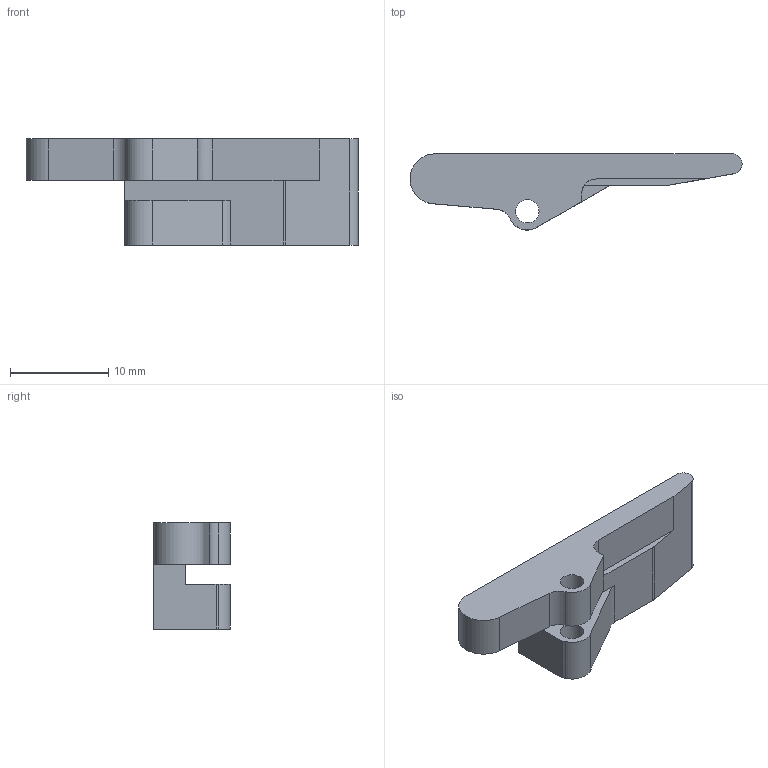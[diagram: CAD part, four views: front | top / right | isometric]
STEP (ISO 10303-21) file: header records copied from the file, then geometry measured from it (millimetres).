
FILE_DESCRIPTION (( 'STEP AP214' ), '1' );
FILE_NAME ('82793-L-F-NLE-133.STEP', '2018-08-02T14:56:25', ( '' ), ( '' ), 'SwSTEP 2.0', 'SolidWorks 2016', '' );
FILE_SCHEMA (( 'AUTOMOTIVE_DESIGN' ));
Length unit declared in the file: inch
Products named in the file (1): 82793-L-F-NLE-133
Bounding box: 33.78 x 7.75 x 10.79 mm (x, y, z)
Volume: 1145.4 mm3; surface area: 1078.4 mm2
Topology: 1 solids, 1 shells, 25 faces, 69 edges, 46 vertices
Faces by surface type: plane 14, cylinder 11
Full cylindrical faces by diameter (mm): 2.381 x2
Entity records: 835 total; most frequent: DIRECTION 141, CARTESIAN_POINT 137, ORIENTED_EDGE 132, EDGE_CURVE 66, AXIS2_PLACEMENT_3D 49, VERTEX_POINT 45, LINE 43, VECTOR 43
